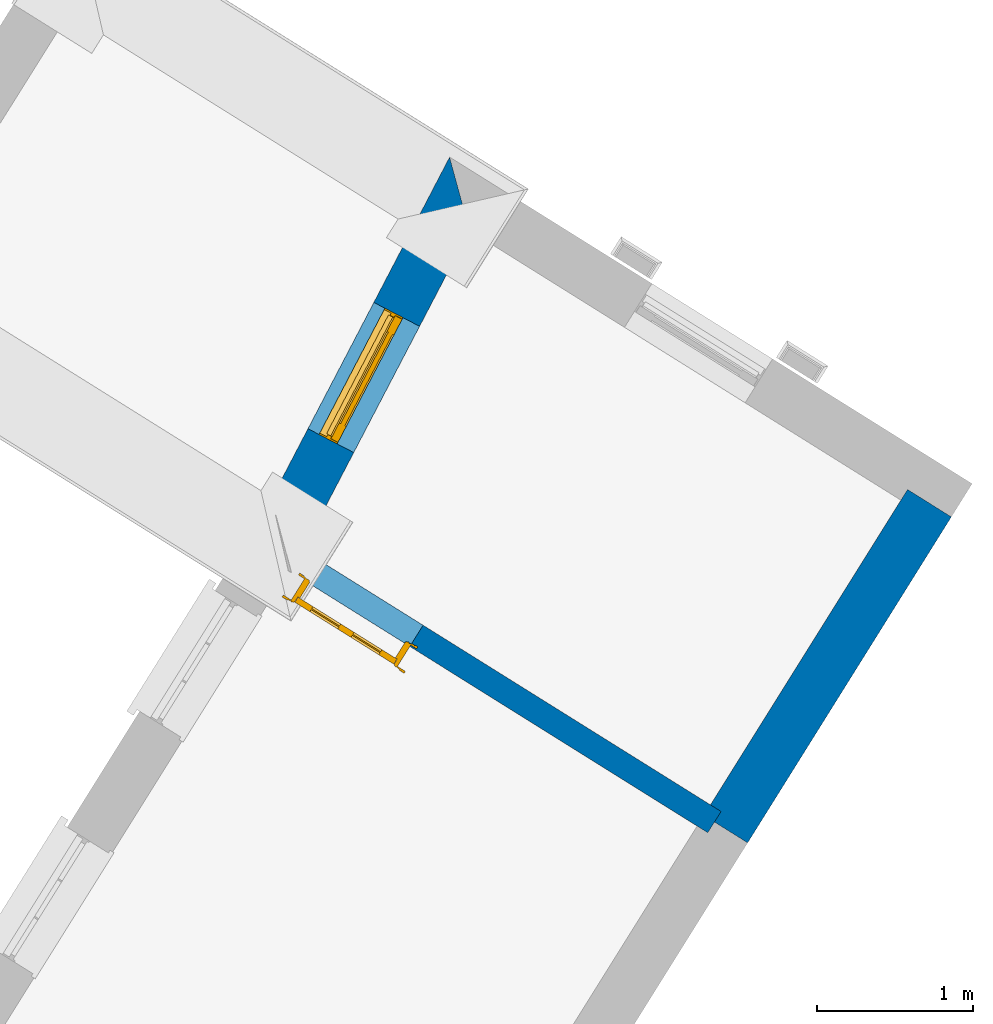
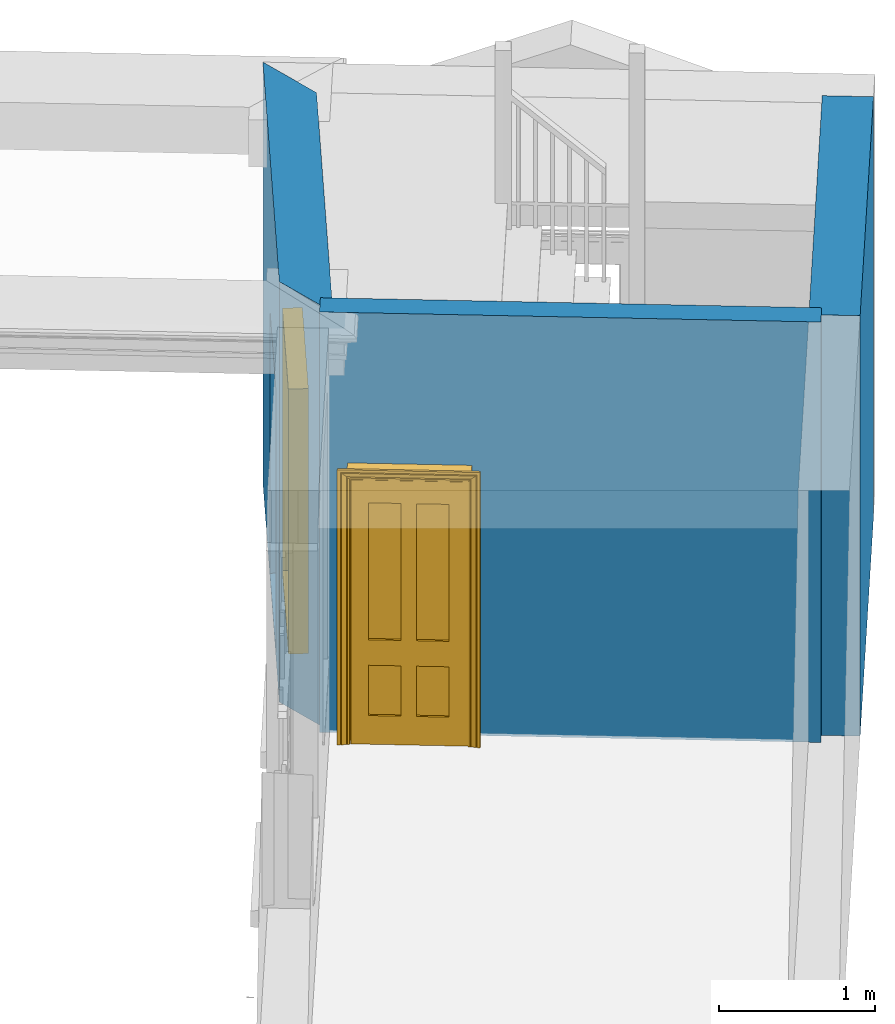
# One storey, part 2 of 5: 3 walls, 2 doors, 2 openings.
"""IFC4 building model written with IfcOpenShell, lengths in metres."""

from ifc_helpers import new_model, si_unit, frame, origin, origin_with_axes, place, context, subcontext, project, spatial, polyline, outline, extrude, faceted_brep, source, transform, mapped, material, layer, layer_set, layer_usage, type_object, type_shapes, element, fill, save


model = new_model("IFC4")

# Units and contexts
model_context = context("Model", 3, world=origin_with_axes())
body_context = subcontext(model_context, "Body", "Model", "MODEL_VIEW")
ifc_project = project(units=[si_unit("PLANEANGLEUNIT", "RADIAN"), si_unit("MASSUNIT", "GRAM", prefix="KILO"), si_unit("FORCEUNIT", "NEWTON", prefix="KILO"), si_unit("LENGTHUNIT", "METRE"), si_unit("AREAUNIT", "SQUARE_METRE"), si_unit("VOLUMEUNIT", "CUBIC_METRE")], contexts=[model_context, model_context])

# Sites, building, storey
site_1_placement = place(None, origin_with_axes())
site_1 = spatial("IfcSite", under=ifc_project, at=site_1_placement, Name="Tamar")
site_2_placement = place(site_1_placement, origin_with_axes())
site_2 = spatial("IfcSite", under=site_1, at=site_2_placement, Name="Site plot-3", CompositionType="ELEMENT")
building_placement = place(None, origin_with_axes())
building = spatial("IfcBuilding", under=site_2, at=building_placement, Name="Building plot-3", CompositionType="ELEMENT")
storey_placement = place(None, frame((0.0, 0.0, 24.5), z_axis=(0.0, 0.0, 1.0), x_axis=(1.0, 0.0, 0.0)))
storey = spatial("IfcBuildingStorey", under=building, at=storey_placement, Name="plot-3 0", CompositionType="ELEMENT", Elevation=24.5)

# Wall, opening, door
ifc_material_1 = material(Name="Masonry")
ifc_layer_1 = layer(ifc_material_1, 0.33, ventilated=False)
ifc_layer_set_1 = layer_set([ifc_layer_1], Name="exterior_0.08_0.25")
ifc_layer_usage_1 = layer_usage(ifc_layer_set_1, "AXIS2", "POSITIVE", -0.25)
wall_type_1 = type_object("IfcWallType", Name="exterior_0.08_0.25", PredefinedType="SOLIDWALL", material=ifc_layer_set_1)
wall_1_placement = place(storey_placement, frame((217.438741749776, 288.244127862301, 0.0), z_axis=(0.0, 0.0, 1.0), x_axis=(-0.462522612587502, -0.886607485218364, 0.0)))
wall_1 = element("IfcWall", 1, at=wall_1_placement, inside=storey, type_object=wall_type_1, material=ifc_layer_usage_1, Name="exterior", context=body_context, shape_type="SweptSolid", body=[
    extrude(outline(polyline([(0.0864787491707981, 0.0799999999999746), (-0.270246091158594, -0.250000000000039), (2.19366976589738, -0.249999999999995), (2.55039460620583, 0.0799999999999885), (0.0864787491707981, 0.0799999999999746)])), origin_with_axes(), (0.0, 0.0, 1.0), 3.3),
])
opening_1_placement = place(wall_1_placement, frame((0.776957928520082, 0.0, 0.0199999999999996)))
opening_1 = element("IfcOpeningElement", 2, at=opening_1_placement, cuts=wall_1, Name="My Opening", ObjectType="Opening", context=body_context, shape_type="SweptSolid", body=[
    extrude(outline(polyline([(0.0, -0.269999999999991), (0.909999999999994, -0.270000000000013), (0.910000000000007, 1.10000000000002), (1.34336985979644e-14, 1.10000000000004), (0.0, -0.269999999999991)])), origin_with_axes(), (0.0, 0.0, 1.0), 2.08),
])
door_type_1 = type_object("IfcDoorType", Name="door_panelled", OperationType="SINGLE_SWING_LEFT", PredefinedType="NOTDEFINED")
shared_shape_1 = source(origin(), body_context, "Body", "Brep", [
    faceted_brep([(0.545, 0.195, 0.265), (0.745, 0.195, 0.265), (0.745, 0.2, 0.265), (0.545, 0.2, 0.265), (0.745, 0.2, 0.58), (0.545, 0.2, 0.58), (0.545, 0.195, 0.58), (0.515, 0.19, 0.235), (0.775, 0.19, 0.235), (0.745, 0.195, 0.58), (0.515, 0.19, 0.61), (0.515, 0.185, 0.235), (0.775, 0.185, 0.235), (0.775, 0.19, 0.61), (0.515, 0.185, 0.61), (0.785, 0.185, 0.225), (0.505, 0.185, 0.225), (0.775, 0.185, 0.61), (0.505, 0.185, 0.62), (0.785, 0.185, 0.62), (0.505, 0.18, 0.225), (0.785, 0.18, 0.225), (0.505, 0.18, 0.62), (0.785, 0.18, 0.62), (0.883, 0.18, 0.075), (0.898, 0.18, 0.075), (0.405, 0.18, 0.62), (0.405, 0.18, 0.225), (0.027, 0.18, 0.075), (0.785, 0.18, 0.82), (0.125, 0.18, 0.82), (0.405, 0.185, 0.62), (0.405, 0.185, 0.225), (0.898, 0.18, 2.068), (0.027, 0.17, 0.075), (0.883, 0.17, 0.075), (0.125, 0.18, 0.225), (0.012, 0.18, 0.075), (0.785, 0.19, 0.82), (0.125, 0.19, 0.82), (0.125, 0.18, 0.62), (0.125, 0.185, 0.62), (0.395, 0.185, 0.61), (0.395, 0.185, 0.235), (0.125, 0.185, 0.225), (0.785, 0.18, 1.895), (0.027, 0.14, 0.045), (0.883, 0.14, 0.045), (0.558333, 0.19, 0.83), (0.351667, 0.19, 0.83), (0.125, 0.18, 1.895), (0.125, 0.19, 1.895), (0.785, 0.19, 1.895), (0.012, 0.18, 2.068), (0.135, 0.185, 0.61), (0.395, 0.19, 0.61), (0.395, 0.19, 0.235), (0.135, 0.185, 0.235), (0.027, 0.14, 0.027), (0.883, 0.14, 0.027), (0.568333, 0.19, 0.83), (0.558333, 0.22, 0.83), (0.351667, 0.22, 0.83), (0.341667, 0.19, 0.83), (0.135, 0.19, 1.185), (0.135, 0.19, 1.53), (0.775, 0.19, 1.53), (0.775, 0.19, 1.185), (0.135, 0.19, 0.61), (0.365, 0.195, 0.58), (0.365, 0.195, 0.265), (0.135, 0.19, 0.235), (0.568333, 0.19, 1.175), (0.558333, 0.19, 1.175), (0.775, 0.19, 0.83), (0.558333, 0.22, 1.175), (0.785, 0.22, 0.82), (0.125, 0.22, 0.82), (0.351667, 0.22, 1.175), (0.351667, 0.19, 1.175), (0.341667, 0.19, 1.175), (0.135, 0.19, 0.83), (0.135, 0.19, 1.175), (0.135, 0.22, 1.185), (0.135, 0.22, 1.53), (0.135, 0.19, 1.54), (0.351667, 0.19, 1.885), (0.558333, 0.19, 1.885), (0.775, 0.22, 1.53), (0.775, 0.22, 1.185), (0.775, 0.19, 1.175), (0.775, 0.19, 1.54), (0.165, 0.195, 0.58), (0.365, 0.2, 0.58), (0.365, 0.2, 0.265), (0.165, 0.195, 0.265), (0.568333, 0.22, 0.83), (0.568333, 0.22, 1.175), (0.568333, 0.19, 1.185), (0.558333, 0.19, 1.185), (0.775, 0.22, 0.83), (0.785, 0.23, 0.82), (0.125, 0.23, 0.82), (0.341667, 0.22, 0.83), (0.341667, 0.22, 1.175), (0.351667, 0.19, 1.185), (0.341667, 0.19, 1.185), (0.135, 0.22, 0.83), (0.341667, 0.22, 1.185), (0.125, 0.22, 1.895), (0.341667, 0.22, 1.53), (0.341667, 0.19, 1.53), (0.135, 0.19, 1.885), (0.341667, 0.19, 1.54), (0.341667, 0.19, 1.885), (0.558333, 0.22, 1.885), (0.351667, 0.22, 1.885), (0.568333, 0.19, 1.885), (0.785, 0.22, 1.895), (0.568333, 0.22, 1.185), (0.568333, 0.19, 1.53), (0.568333, 0.22, 1.53), (0.568333, 0.19, 1.54), (0.775, 0.19, 1.885), (0.165, 0.2, 0.58), (0.165, 0.2, 0.265), (0.775, 0.22, 1.175), (0.558333, 0.19, 1.53), (0.351667, 0.22, 1.185), (0.558333, 0.22, 1.185), (0.505, 0.23, 0.62), (0.405, 0.23, 0.62), (0.125, 0.23, 1.895), (0.785, 0.23, 1.895), (0.351667, 0.19, 1.53), (0.135, 0.22, 1.175), (0.135, 0.22, 1.54), (0.341667, 0.22, 1.54), (0.135, 0.22, 1.885), (0.351667, 0.19, 1.54), (0.558333, 0.22, 1.54), (0.558333, 0.19, 1.54), (0.351667, 0.22, 1.54), (0.775, 0.22, 1.54), (0.568333, 0.22, 1.54), (0.775, 0.22, 1.885), (0.558333, 0.22, 1.53), (0.405, 0.23, 0.225), (0.505, 0.23, 0.225), (0.125, 0.23, 0.62), (0.785, 0.23, 0.62), (0.012, 0.23, 2.068), (0.898, 0.23, 2.068), (0.351667, 0.22, 1.53), (0.341667, 0.22, 1.885), (0.568333, 0.22, 1.885), (0.405, 0.225, 0.225), (0.405, 0.225, 0.62), (0.505, 0.225, 0.62), (0.505, 0.225, 0.225), (0.898, 0.23, 0.027), (0.012, 0.23, 0.027), (0.125, 0.225, 0.62), (0.785, 0.225, 0.62), (0.395, 0.225, 0.235), (0.395, 0.225, 0.61), (0.125, 0.23, 0.225), (0.125, 0.225, 0.225), (0.515, 0.225, 0.61), (0.515, 0.225, 0.235), (0.785, 0.23, 0.225), (0.785, 0.225, 0.225), (0.135, 0.225, 0.61), (0.775, 0.225, 0.61), (0.135, 0.225, 0.235), (0.395, 0.22, 0.235), (0.395, 0.22, 0.61), (0.515, 0.22, 0.61), (0.515, 0.22, 0.235), (0.775, 0.225, 0.235), (0.135, 0.22, 0.61), (0.775, 0.22, 0.61), (0.135, 0.22, 0.235), (0.365, 0.215, 0.265), (0.365, 0.215, 0.58), (0.545, 0.215, 0.58), (0.545, 0.215, 0.265), (0.775, 0.22, 0.235), (0.165, 0.215, 0.58), (0.745, 0.215, 0.58), (0.165, 0.215, 0.265), (0.365, 0.21, 0.58), (0.365, 0.21, 0.265), (0.545, 0.21, 0.58), (0.545, 0.21, 0.265), (0.745, 0.215, 0.265), (0.165, 0.21, 0.58), (0.745, 0.21, 0.58), (0.165, 0.21, 0.265), (0.745, 0.21, 0.265), (0.885, 0.178, 0.025), (0.025, 0.178, 0.025), (0.025, 0.15, 0.025), (0.885, 0.15, 0.025), (0.9, 0.23, 0.025), (0.01, 0.23, 0.025), (0.9, 0.178, 0.025), (0.91, 0.23, 0.0), (0.0, 0.23, 0.0), (0.01, 0.178, 0.025), (0.9, 0.178, 2.07), (0.9, 0.23, 2.07), (0.885, 0.178, 2.055), (0.91, 0.23, 2.08), (0.01, 0.23, 2.07), (0.0, 0.23, 2.08), (0.01, 0.178, 2.07), (0.025, 0.178, 2.055), (0.0, 0.1, 2.08), (0.91, 0.1, 2.08), (0.01, 0.1, 2.07), (0.9, 0.1, 2.07), (0.01, 0.15, 2.07), (0.9, 0.15, 2.07), (0.0, 0.1, 0.0), (0.91, 0.1, 0.0), (0.01, 0.1, 0.025), (0.9, 0.1, 0.025), (0.01, 0.15, 0.025), (0.025, 0.15, 2.055), (0.9, 0.15, 0.025), (0.885, 0.15, 2.055), (0.898, 0.18, 0.027), (0.012, 0.18, 0.027), (0.883, 0.18, 0.027), (0.027, 0.18, 0.027)], [[[0, 1, 2, 3]], [[2, 4, 5, 3]], [[0, 3, 5, 6]], [[1, 0, 7, 8]], [[9, 4, 2, 1]], [[9, 6, 5, 4]], [[0, 6, 10, 7]], [[8, 7, 11, 12]], [[8, 13, 9, 1]], [[13, 10, 6, 9]], [[7, 10, 14, 11]], [[15, 12, 11, 16]], [[12, 17, 13, 8]], [[17, 14, 10, 13]], [[18, 16, 11, 14]], [[15, 19, 17, 12]], [[15, 16, 20, 21]], [[14, 17, 19, 18]], [[16, 18, 22, 20]], [[21, 23, 19, 15]], [[24, 25, 21, 20]], [[23, 22, 18, 19]], [[20, 22, 26, 27]], [[23, 21, 25]], [[28, 24, 20, 27]], [[22, 23, 29]], [[29, 30, 26, 22]], [[27, 26, 31, 32]], [[23, 25, 33, 29]], [[34, 35, 24, 28]], [[28, 27, 36, 37]], [[38, 39, 30, 29]], [[26, 30, 40]], [[26, 40, 41, 31]], [[42, 43, 32, 31]], [[32, 44, 36, 27]], [[33, 45, 29]], [[46, 47, 35, 34]], [[36, 40, 37]], [[39, 38, 48, 49]], [[50, 30, 39, 51]], [[29, 45, 52, 38]], [[53, 37, 40, 30]], [[44, 41, 40, 36]], [[31, 41, 54, 42]], [[43, 42, 55, 56]], [[57, 44, 32, 43]], [[50, 45, 33, 53]], [[47, 46, 58, 59]], [[60, 48, 38]], [[49, 48, 61, 62]], [[49, 63, 39]], [[50, 53, 30]], [[51, 39, 64, 65]], [[45, 50, 51, 52]], [[66, 67, 38, 52]], [[57, 54, 41, 44]], [[42, 54, 68, 55]], [[56, 55, 69, 70]], [[56, 71, 57, 43]], [[60, 72, 73, 48]], [[60, 38, 74]], [[48, 73, 75, 61]], [[76, 77, 62, 61]], [[62, 78, 79, 49]], [[49, 79, 80, 63]], [[63, 81, 39]], [[82, 64, 39]], [[65, 64, 83, 84]], [[85, 51, 65]], [[52, 51, 86, 87]], [[88, 89, 67, 66]], [[90, 38, 67]], [[91, 66, 52]], [[71, 68, 54, 57]], [[55, 68, 92, 69]], [[69, 93, 94, 70]], [[70, 95, 71, 56]], [[96, 97, 72, 60]], [[73, 72, 98, 99]], [[74, 38, 90]], [[100, 96, 60, 74]], [[75, 73, 79, 78]], [[61, 75, 97, 96]], [[101, 102, 77, 76]], [[77, 103, 62]], [[96, 76, 61]], [[103, 104, 78, 62]], [[80, 79, 105, 106]], [[63, 80, 104, 103]], [[81, 63, 103, 107]], [[81, 82, 39]], [[106, 64, 82, 80]], [[106, 108, 83, 64]], [[84, 83, 77, 109]], [[110, 111, 65, 84]], [[112, 51, 85]], [[113, 85, 65, 111]], [[114, 86, 51]], [[115, 87, 86, 116]], [[117, 52, 87]], [[118, 76, 89, 88]], [[119, 98, 67, 89]], [[120, 121, 88, 66]], [[67, 98, 72, 90]], [[91, 122, 120, 66]], [[91, 52, 123]], [[95, 92, 68, 71]], [[69, 92, 124, 93]], [[94, 93, 124, 125]], [[94, 125, 95, 70]], [[72, 97, 126, 90]], [[127, 99, 98, 120]], [[99, 105, 79, 73]], [[74, 90, 126, 100]], [[96, 100, 76]], [[128, 129, 75, 78]], [[97, 75, 129, 119]], [[130, 131, 102, 101]], [[109, 77, 102, 132]], [[133, 101, 76, 118]], [[77, 107, 103]], [[78, 104, 108, 128]], [[111, 106, 105, 134]], [[104, 80, 82, 135]], [[107, 135, 82, 81]], [[110, 108, 106, 111]], [[104, 135, 83, 108]], [[83, 135, 77]], [[136, 84, 109]], [[110, 84, 136, 137]], [[114, 51, 112]], [[85, 136, 138, 112]], [[113, 137, 136, 85]], [[111, 134, 139, 113]], [[86, 114, 113, 139]], [[140, 141, 87, 115]], [[139, 142, 116, 86]], [[109, 118, 115, 116]], [[117, 123, 52]], [[117, 87, 141, 122]], [[126, 89, 76]], [[143, 118, 88]], [[120, 98, 119, 121]], [[119, 89, 126, 97]], [[144, 143, 88, 121]], [[144, 122, 91, 143]], [[127, 120, 122, 141]], [[143, 91, 123, 145]], [[124, 92, 95, 125]], [[146, 129, 99, 127]], [[99, 129, 128, 105]], [[100, 126, 76]], [[121, 119, 129, 146]], [[147, 131, 130, 148]], [[131, 149, 102]], [[130, 101, 150]], [[102, 151, 132]], [[118, 109, 132, 133]], [[101, 133, 152]], [[107, 77, 135]], [[153, 128, 108, 110]], [[134, 105, 128, 153]], [[109, 138, 136]], [[153, 110, 137, 142]], [[154, 114, 112, 138]], [[137, 113, 114, 154]], [[141, 139, 134, 127]], [[141, 140, 142, 139]], [[144, 140, 115, 155]], [[142, 137, 154, 116]], [[155, 115, 118]], [[116, 154, 109]], [[117, 155, 145, 123]], [[122, 144, 155, 117]], [[143, 145, 118]], [[121, 146, 140, 144]], [[146, 127, 134, 153]], [[156, 157, 131, 147]], [[148, 130, 158, 159]], [[148, 160, 161, 147]], [[157, 162, 149, 131]], [[161, 151, 102, 149]], [[101, 152, 160, 150]], [[163, 158, 130, 150]], [[151, 152, 133, 132]], [[154, 138, 109]], [[142, 140, 146, 153]], [[145, 155, 118]], [[157, 156, 164, 165]], [[147, 166, 167, 156]], [[168, 169, 159, 158]], [[170, 148, 159, 171]], [[148, 170, 160]], [[166, 147, 161]], [[172, 162, 157, 165]], [[166, 149, 162, 167]], [[166, 161, 149]], [[150, 160, 170]], [[163, 173, 168, 158]], [[171, 163, 150, 170]], [[174, 164, 156, 167]], [[175, 176, 165, 164]], [[169, 168, 177, 178]], [[171, 159, 169, 179]], [[167, 162, 172, 174]], [[176, 180, 172, 165]], [[179, 173, 163, 171]], [[181, 177, 168, 173]], [[164, 174, 182, 175]], [[183, 184, 176, 175]], [[178, 177, 185, 186]], [[179, 169, 178, 187]], [[174, 172, 180, 182]], [[184, 188, 180, 176]], [[187, 181, 173, 179]], [[189, 185, 177, 181]], [[175, 182, 190, 183]], [[191, 184, 183, 192]], [[185, 193, 194, 186]], [[187, 178, 186, 195]], [[182, 180, 188, 190]], [[191, 196, 188, 184]], [[195, 189, 181, 187]], [[197, 193, 185, 189]], [[183, 190, 198, 192]], [[198, 196, 191, 192]], [[194, 193, 197, 199]], [[195, 186, 194, 199]], [[188, 196, 198, 190]], [[197, 189, 195, 199]], [[200, 201, 202, 203]], [[201, 200, 204, 205]], [[206, 204, 200]], [[204, 207, 208, 205]], [[209, 201, 205]], [[210, 211, 204, 206]], [[206, 200, 212, 210]], [[211, 213, 207, 204]], [[214, 205, 208, 215]], [[216, 217, 201, 209]], [[205, 214, 216, 209]], [[216, 214, 211, 210]], [[210, 212, 217, 216]], [[214, 215, 213, 211]], [[218, 219, 213, 215]], [[219, 218, 220, 221]], [[221, 220, 222, 223]], [[215, 208, 224, 218]], [[225, 224, 208, 207]], [[224, 226, 220, 218]], [[224, 225, 227, 226]], [[219, 225, 207, 213]], [[228, 222, 220, 226]], [[219, 221, 227, 225]], [[226, 227, 203, 202]], [[202, 229, 222, 228]], [[228, 226, 202]], [[227, 221, 223, 230]], [[230, 203, 227]], [[217, 229, 202, 201]], [[231, 223, 222, 229]], [[230, 223, 231, 203]], [[231, 229, 217, 212]], [[212, 200, 203, 231]], [[33, 152, 151, 53]], [[25, 160, 152, 33]], [[161, 37, 53, 151]], [[232, 160, 25]], [[161, 233, 37]], [[160, 232, 234]], [[24, 234, 232, 25]], [[233, 161, 235]], [[37, 233, 235, 28]], [[161, 160, 234, 235]], [[35, 47, 234, 24]], [[28, 235, 46, 34]], [[58, 235, 234, 59]], [[59, 234, 47]], [[58, 46, 235]]]),
])
type_shapes(door_type_1, [shared_shape_1])
door_1_placement = place(storey_placement, frame((216.839997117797, 287.680152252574, 0.0199999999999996), z_axis=(0.0, 0.0, 1.0), x_axis=(-0.420895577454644, -0.806812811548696, 0.0)))
door_1 = element("IfcDoor", 3, at=door_1_placement, inside=storey, type_object=door_type_1, Name="circulation sahn door", OverallHeight=2.08, OverallWidth=0.91, context=body_context, shape_type="MappedRepresentation", body=[
    mapped(shared_shape_1, transform((0.0, 0.0, 0.0), scale=1.0)),
])
fill(opening_1, door_1)

# Wall
ifc_material_2 = material(Name="Masonry")
ifc_layer_2 = layer(ifc_material_2, 0.33, ventilated=False)
ifc_layer_set_2 = layer_set([ifc_layer_2], Name="party_0.08_0.25")
ifc_layer_usage_2 = layer_usage(ifc_layer_set_2, "AXIS2", "POSITIVE", -0.25)
wall_type_2 = type_object("IfcWallType", Name="party_0.08_0.25", PredefinedType="SOLIDWALL", material=ifc_layer_set_2)
wall_2_placement = place(storey_placement, frame((219.034325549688, 284.349977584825, 0.0), z_axis=(0.0, 0.0, 1.0), x_axis=(0.530026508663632, 0.847981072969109, 0.0)))
element("IfcWall", 4, at=wall_2_placement, inside=storey, type_object=wall_type_2, material=ifc_layer_usage_2, Name="party", context=body_context, shape_type="SweptSolid", body=[
    extrude(outline(polyline([(2.64015612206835e-14, 0.0799999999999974), (-7.72007032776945e-14, -0.250000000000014), (2.45646401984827, -0.250000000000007), (2.4564640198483, 0.0800000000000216), (2.64015612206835e-14, 0.0799999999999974)])), origin_with_axes(), (0.0, 0.0, 1.0), 3.3),
])

# Wall, opening, door
ifc_material_3 = material(Name="Masonry")
ifc_layer_3 = layer(ifc_material_3, 0.16, ventilated=False)
ifc_layer_set_3 = layer_set([ifc_layer_3], Name="interior_0.08_0.08")
ifc_layer_usage_3 = layer_usage(ifc_layer_set_3, "AXIS2", "POSITIVE", -0.08)
wall_type_3 = type_object("IfcWallType", Name="interior_0.08_0.08", PredefinedType="SOLIDWALL", material=ifc_layer_set_3)
wall_3_placement = place(storey_placement, frame((219.034325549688, 284.349977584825, 0.0), z_axis=(0.0, 0.0, 1.0), x_axis=(-0.847981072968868, 0.530026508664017, 0.0)))
wall_3 = element("IfcWall", 5, at=wall_3_placement, inside=storey, type_object=wall_type_3, material=ifc_layer_usage_3, Name="interior", context=body_context, shape_type="SweptSolid", body=[
    extrude(outline(polyline([(-9.94269971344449e-15, 0.0799999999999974), (9.95249688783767e-15, -0.0799999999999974), (3.22554439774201, -0.0799999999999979), (3.22554439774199, 0.0799999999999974), (-9.94269971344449e-15, 0.0799999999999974)])), origin_with_axes(), (0.0, 0.0, 1.0), 3.3),
])
opening_2_placement = place(wall_3_placement, frame((2.24554439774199, 0.0, 0.0199999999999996)))
opening_2 = element("IfcOpeningElement", 6, at=opening_2_placement, cuts=wall_3, Name="My Opening", ObjectType="Opening", context=body_context, shape_type="SweptSolid", body=[
    extrude(outline(polyline([(0.0, -0.0999999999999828), (0.80000000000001, -0.099999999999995), (0.800000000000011, 1.09999999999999), (1.33226762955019e-15, 1.1), (0.0, -0.0999999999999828)])), origin_with_axes(), (0.0, 0.0, 1.0), 2.1),
])
door_type_2 = type_object("IfcDoorType", Name="door_inside", OperationType="SINGLE_SWING_LEFT", PredefinedType="NOTDEFINED")
shared_shape_2 = source(origin(), body_context, "Body", "Brep", [
    faceted_brep([(0.773, 0.33, 1.895), (0.66, 0.33, 1.895), (0.66, 0.33, 2.073), (0.773, 0.33, 2.073), (0.773, 0.33, 0.82), (0.66, 0.33, 0.82), (0.45, 0.33, 1.895), (0.45, 0.33, 2.073), (0.773, 0.33, 0.62), (0.66, 0.33, 0.62), (0.66, 0.315, 0.82), (0.66, 0.315, 1.895), (0.45, 0.315, 1.895), (0.35, 0.33, 1.895), (0.35, 0.33, 2.073), (0.773, 0.33, 0.225), (0.66, 0.33, 0.225), (0.45, 0.33, 0.62), (0.45, 0.33, 0.82), (0.45, 0.315, 0.82), (0.35, 0.33, 0.82), (0.14, 0.33, 2.073), (0.14, 0.33, 1.895), (0.773, 0.33, 0.0), (0.66, 0.33, 0.0), (0.66, 0.315, 0.225), (0.66, 0.315, 0.62), (0.45, 0.315, 0.62), (0.35, 0.33, 0.62), (0.35, 0.315, 0.82), (0.35, 0.315, 1.895), (0.14, 0.315, 1.895), (0.027, 0.33, 2.073), (0.027, 0.33, 1.895), (0.773, 0.292, 0.0), (0.66, 0.292, 0.0), (0.45, 0.33, 0.0), (0.45, 0.33, 0.225), (0.45, 0.315, 0.225), (0.35, 0.33, 0.225), (0.14, 0.33, 0.82), (0.14, 0.33, 0.62), (0.14, 0.315, 0.82), (0.027, 0.33, 0.82), (0.773, 0.292, 0.225), (0.66, 0.292, 0.225), (0.45, 0.292, 0.0), (0.35, 0.33, 0.0), (0.35, 0.315, 0.225), (0.35, 0.315, 0.62), (0.14, 0.315, 0.62), (0.027, 0.33, 0.62), (0.773, 0.292, 0.62), (0.66, 0.292, 0.62), (0.45, 0.292, 0.225), (0.35, 0.292, 0.0), (0.14, 0.33, 0.225), (0.14, 0.33, 0.0), (0.14, 0.315, 0.225), (0.027, 0.33, 0.225), (0.773, 0.292, 0.82), (0.66, 0.292, 0.82), (0.66, 0.307, 0.62), (0.66, 0.307, 0.225), (0.45, 0.307, 0.225), (0.35, 0.292, 0.225), (0.14, 0.292, 0.0), (0.027, 0.33, 0.0), (0.773, 0.292, 1.895), (0.66, 0.292, 1.895), (0.45, 0.292, 0.62), (0.45, 0.292, 0.82), (0.45, 0.307, 0.62), (0.35, 0.292, 0.62), (0.14, 0.292, 0.225), (0.027, 0.292, 0.0), (0.773, 0.292, 2.073), (0.66, 0.292, 2.073), (0.66, 0.307, 1.895), (0.66, 0.307, 0.82), (0.45, 0.307, 0.82), (0.35, 0.292, 0.82), (0.35, 0.307, 0.62), (0.35, 0.307, 0.225), (0.14, 0.307, 0.225), (0.027, 0.292, 0.225), (0.45, 0.292, 1.895), (0.45, 0.292, 2.073), (0.45, 0.307, 1.895), (0.35, 0.292, 1.895), (0.14, 0.292, 0.82), (0.14, 0.292, 0.62), (0.14, 0.307, 0.62), (0.027, 0.292, 0.62), (0.35, 0.292, 2.073), (0.35, 0.307, 1.895), (0.35, 0.307, 0.82), (0.14, 0.307, 0.82), (0.027, 0.292, 0.82), (0.14, 0.292, 2.073), (0.14, 0.292, 1.895), (0.14, 0.307, 1.895), (0.027, 0.292, 1.895), (0.027, 0.292, 2.073), (0.02, 0.335, 0.0), (0.005, 0.34, 0.0), (0.005, 0.34, 2.095), (0.02, 0.335, 2.08), (0.02, 0.33, 0.0), (0.0, 0.335, 0.0), (0.0, 0.335, 2.1), (0.795, 0.34, 2.095), (0.78, 0.335, 2.08), (0.02, 0.33, 2.08), (0.0, 0.33, 0.0), (-0.032, 0.345, 0.0), (-0.032, 0.345, 2.132), (0.8, 0.335, 2.1), (0.795, 0.34, 0.0), (0.78, 0.335, 0.0), (0.78, 0.33, 2.08), (0.04, 0.29, 0.0), (0.025, 0.29, 0.0), (0.025, 0.29, 2.075), (0.04, 0.29, 2.06), (-0.04, 0.34, 0.0), (-0.04, 0.34, 2.14), (0.832, 0.345, 2.132), (0.8, 0.335, 0.0), (0.78, 0.33, 0.0), (0.8, 0.33, 0.0), (0.86, 0.33, 0.0), (0.86, 0.33, 2.16), (0.8, 0.33, 2.1), (-0.06, 0.33, 2.16), (0.0, 0.33, 2.1), (-0.06, 0.33, 0.0), (-0.04, 0.345, 0.0), (-0.04, 0.345, 2.14), (0.84, 0.34, 2.14), (0.832, 0.345, 0.0), (0.84, 0.34, 0.0), (0.86, 0.345, 0.0), (0.86, 0.345, 2.16), (-0.06, 0.345, 2.16), (-0.06, 0.345, 0.0), (0.84, 0.345, 0.0), (0.84, 0.345, 2.14), (-0.025, 0.155, 0.0), (-0.025, 0.16, 0.0), (-0.025, 0.16, 2.125), (-0.025, 0.155, 2.125), (-0.017, 0.155, 0.0), (-0.017, 0.155, 2.117), (0.825, 0.16, 2.125), (0.825, 0.155, 2.125), (0.825, 0.155, 0.0), (0.845, 0.155, 0.0), (-0.045, 0.155, 2.145), (-0.045, 0.155, 0.0), (0.845, 0.155, 2.145), (0.015, 0.165, 0.0), (0.015, 0.165, 2.085), (0.817, 0.155, 2.117), (0.825, 0.16, 0.0), (0.845, 0.17, 0.0), (0.845, 0.17, 2.145), (-0.045, 0.17, 2.145), (-0.045, 0.17, 0.0), (0.02, 0.16, 0.0), (0.02, 0.16, 2.08), (0.785, 0.165, 2.085), (0.817, 0.155, 0.0), (0.8, 0.17, 0.0), (0.8, 0.17, 2.1), (0.0, 0.17, 2.1), (0.0, 0.17, 0.0), (0.035, 0.165, 0.0), (0.035, 0.165, 2.065), (0.78, 0.16, 2.08), (0.785, 0.165, 0.0), (0.775, 0.29, 2.075), (0.76, 0.29, 2.06), (0.035, 0.17, 2.065), (0.035, 0.17, 0.0), (0.765, 0.165, 2.065), (0.78, 0.16, 0.0), (0.765, 0.17, 0.0), (0.765, 0.17, 2.065), (0.765, 0.165, 0.0), (0.04, 0.17, 2.06), (0.04, 0.17, 0.0), (0.76, 0.17, 2.06), (0.76, 0.17, 0.0), (0.76, 0.29, 0.0), (0.775, 0.29, 0.0), (0.025, 0.33, 0.0), (0.025, 0.33, 2.075), (0.775, 0.33, 0.0), (0.775, 0.33, 2.075)], [[[0, 1, 2, 3]], [[1, 0, 4, 5]], [[1, 6, 7, 2]], [[8, 9, 5, 4]], [[1, 5, 10, 11]], [[6, 1, 11, 12]], [[6, 13, 14, 7]], [[15, 16, 9, 8]], [[9, 17, 18, 5]], [[5, 18, 19, 10]], [[10, 19, 12, 11]], [[18, 6, 12, 19]], [[18, 20, 13, 6]], [[21, 14, 13, 22]], [[23, 24, 16, 15]], [[9, 16, 25, 26]], [[17, 9, 26, 27]], [[17, 28, 20, 18]], [[13, 20, 29, 30]], [[22, 13, 30, 31]], [[32, 21, 22, 33]], [[34, 35, 24, 23]], [[24, 36, 37, 16]], [[16, 37, 38, 25]], [[25, 38, 27, 26]], [[37, 17, 27, 38]], [[37, 39, 28, 17]], [[40, 20, 28, 41]], [[20, 40, 42, 29]], [[31, 30, 29, 42]], [[40, 22, 31, 42]], [[33, 22, 40, 43]], [[35, 34, 44, 45]], [[35, 46, 36, 24]], [[36, 47, 39, 37]], [[28, 39, 48, 49]], [[41, 28, 49, 50]], [[43, 40, 41, 51]], [[45, 44, 52, 53]], [[46, 35, 45, 54]], [[46, 55, 47, 36]], [[56, 39, 47, 57]], [[39, 56, 58, 48]], [[50, 49, 48, 58]], [[56, 41, 50, 58]], [[51, 41, 56, 59]], [[53, 52, 60, 61]], [[45, 53, 62, 63]], [[54, 45, 63, 64]], [[55, 46, 54, 65]], [[55, 66, 57, 47]], [[59, 56, 57, 67]], [[61, 60, 68, 69]], [[70, 53, 61, 71]], [[53, 70, 72, 62]], [[72, 64, 63, 62]], [[70, 54, 64, 72]], [[65, 54, 70, 73]], [[65, 74, 66, 55]], [[67, 57, 66, 75]], [[69, 68, 76, 77]], [[61, 69, 78, 79]], [[71, 61, 79, 80]], [[73, 70, 71, 81]], [[65, 73, 82, 83]], [[74, 65, 83, 84]], [[74, 85, 75, 66]], [[86, 69, 77, 87]], [[69, 86, 88, 78]], [[88, 80, 79, 78]], [[86, 71, 80, 88]], [[81, 71, 86, 89]], [[73, 81, 90, 91]], [[73, 91, 92, 82]], [[83, 82, 92, 84]], [[91, 74, 84, 92]], [[91, 93, 85, 74]], [[89, 86, 87, 94]], [[81, 89, 95, 96]], [[90, 81, 96, 97]], [[90, 98, 93, 91]], [[94, 99, 100, 89]], [[89, 100, 101, 95]], [[101, 97, 96, 95]], [[100, 90, 97, 101]], [[100, 102, 98, 90]], [[99, 103, 102, 100]], [[32, 103, 99, 21]], [[102, 103, 32, 33]], [[98, 102, 33, 43]], [[21, 99, 94, 14]], [[94, 87, 7, 14]], [[7, 87, 77, 2]], [[76, 3, 2, 77]], [[43, 51, 93, 98]], [[51, 59, 85, 93]], [[67, 75, 85, 59]], [[34, 23, 15, 44]], [[44, 15, 8, 52]], [[52, 8, 4, 60]], [[0, 68, 60, 4]], [[0, 3, 76, 68]], [[104, 105, 106, 107]], [[104, 108, 109, 105]], [[105, 109, 110, 106]], [[107, 106, 111, 112]], [[107, 113, 108, 104]], [[114, 109, 108]], [[109, 115, 116, 110]], [[106, 110, 117, 111]], [[112, 111, 118, 119]], [[113, 107, 112, 120]], [[121, 122, 123, 124]], [[115, 109, 114, 125]], [[115, 125, 126, 116]], [[110, 116, 127, 117]], [[111, 117, 128, 118]], [[118, 128, 129, 119]], [[120, 112, 119, 129]], [[130, 129, 128]], [[130, 131, 132, 133]], [[133, 132, 134, 135]], [[135, 134, 136, 114]], [[136, 125, 114]], [[125, 137, 138, 126]], [[116, 126, 139, 127]], [[117, 127, 140, 128]], [[141, 130, 128, 140]], [[131, 130, 141]], [[131, 142, 143, 132]], [[132, 143, 144, 134]], [[134, 144, 145, 136]], [[137, 125, 136, 145]], [[143, 142, 146]], [[143, 146, 147]], [[137, 145, 144]], [[143, 147, 138]], [[138, 137, 144]], [[143, 138, 144]], [[126, 138, 147, 139]], [[127, 139, 141, 140]], [[142, 131, 141, 146]], [[139, 147, 146, 141]], [[148, 149, 150, 151]], [[149, 152, 153, 150]], [[151, 150, 154, 155]], [[155, 156, 157]], [[158, 159, 148]], [[158, 148, 151]], [[155, 157, 160]], [[158, 151, 155]], [[155, 160, 158]], [[152, 161, 162, 153]], [[150, 153, 163, 154]], [[155, 154, 164, 156]], [[156, 164, 165, 157]], [[157, 165, 166, 160]], [[160, 166, 167, 158]], [[158, 167, 168, 159]], [[161, 169, 170, 162]], [[153, 162, 171, 163]], [[154, 163, 172, 164]], [[165, 164, 173]], [[165, 173, 174, 166]], [[166, 174, 175, 167]], [[167, 175, 176, 168]], [[169, 177, 178, 170]], [[162, 170, 179, 171]], [[163, 171, 180, 172]], [[172, 180, 173, 164]], [[124, 123, 181, 182]], [[183, 178, 177, 184]], [[170, 178, 185, 179]], [[171, 179, 186, 180]], [[187, 173, 180]], [[185, 188, 187, 189]], [[188, 185, 178, 183]], [[179, 185, 189, 186]], [[189, 187, 180, 186]], [[190, 183, 184, 191]], [[192, 188, 183, 190]], [[191, 184, 122, 121]], [[124, 190, 191, 121]], [[193, 187, 188, 192]], [[182, 192, 190, 124]], [[184, 176, 122]], [[194, 195, 187, 193]], [[192, 182, 194, 193]], [[161, 176, 184]], [[114, 108, 122, 176]], [[173, 187, 195]], [[152, 149, 176, 161]], [[169, 161, 184, 177]], [[196, 122, 108]], [[176, 175, 135, 114]], [[173, 195, 129, 130]], [[176, 149, 168]], [[123, 122, 196, 197]], [[196, 108, 113, 197]], [[175, 174, 133, 135]], [[198, 129, 195]], [[133, 174, 173, 130]], [[159, 168, 149, 148]], [[181, 123, 197, 199]], [[197, 113, 120, 199]], [[199, 120, 129, 198]], [[195, 181, 199, 198]], [[195, 194, 182, 181]]]),
])
type_shapes(door_type_2, [shared_shape_2])
door_2_placement = place(storey_placement, frame((217.183149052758, 285.624973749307, 0.0199999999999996), z_axis=(0.0, 0.0, 1.0), x_axis=(-0.678384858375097, 0.424021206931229, 0.0)))
door_2 = element("IfcDoor", 7, at=door_2_placement, inside=storey, type_object=door_type_2, Name="bedroom inside door", OverallHeight=2.1, OverallWidth=0.8, context=body_context, shape_type="MappedRepresentation", body=[
    mapped(shared_shape_2, transform((0.0, 0.0, 0.0), scale=1.0)),
])
fill(opening_2, door_2)

save(model, "model.ifc")
